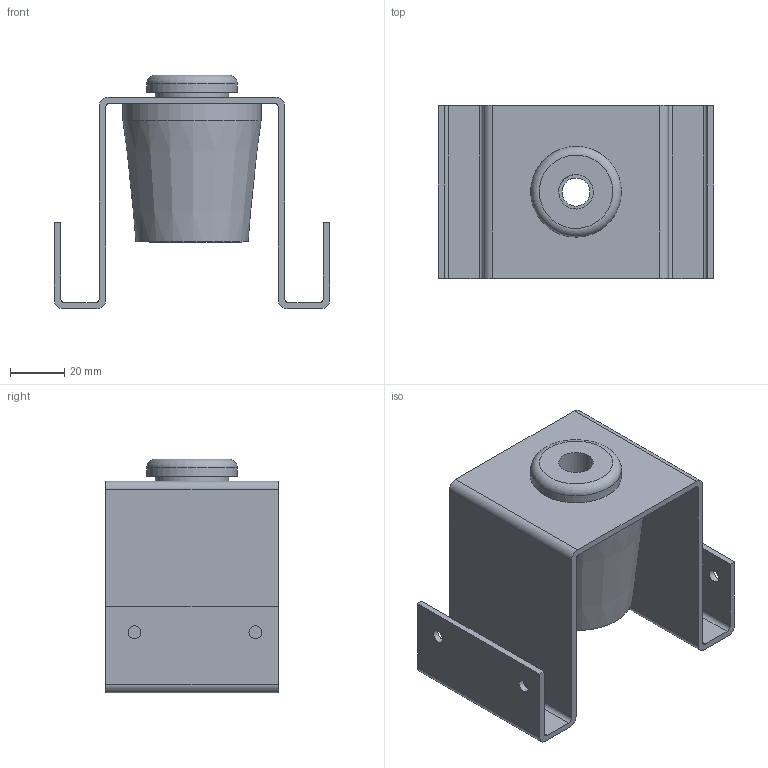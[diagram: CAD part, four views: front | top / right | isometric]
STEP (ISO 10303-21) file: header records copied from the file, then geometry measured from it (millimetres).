
FILE_DESCRIPTION(/* description */ (''),/* implementation_level */ '2;1');
FILE_NAME(/* name */ 'C:\001_Work\Designs\HANGER BOXES\ARCHITECTURAL CEILING HANGERS\CRCH-A\CRCH-A.stp',/* time_stamp */ '2016-01-28T14:26:00-05:00',/* author */ ('rramoutar'),/* organization */ ('Mason Industries Inc.'),/* preprocessor_version */ 'ST-DEVELOPER v15.6',/* originating_system */ 'Autodesk Inventor 2015',/* authorisation */ '');
FILE_SCHEMA (('CONFIG_CONTROL_DESIGN'));
Length unit declared in the file: inch
Products named in the file (1): A-31671-2 CRCH-A
Bounding box: 101.19 x 63.5 x 85.83 mm (x, y, z)
Volume: 129686.3 mm3; surface area: 58635.6 mm2
Topology: 3 solids, 3 shells, 313 faces, 832 edges, 556 vertices
Faces by surface type: plane 167, bspline 119, cylinder 25, torus 1, cone 1
Full cylindrical faces by diameter (mm): 4.762 x4, 10.319 x1, 12.7 x1, 19.05 x1, 26.987 x2, 33.337 x1, 38.1 x2, 50.8 x1
Entity records: 10922 total; most frequent: CARTESIAN_POINT 3603, ORIENTED_EDGE 1622, DIRECTION 1015, EDGE_CURVE 811, VERTEX_POINT 550, LINE 521, VECTOR 521, EDGE_LOOP 373
